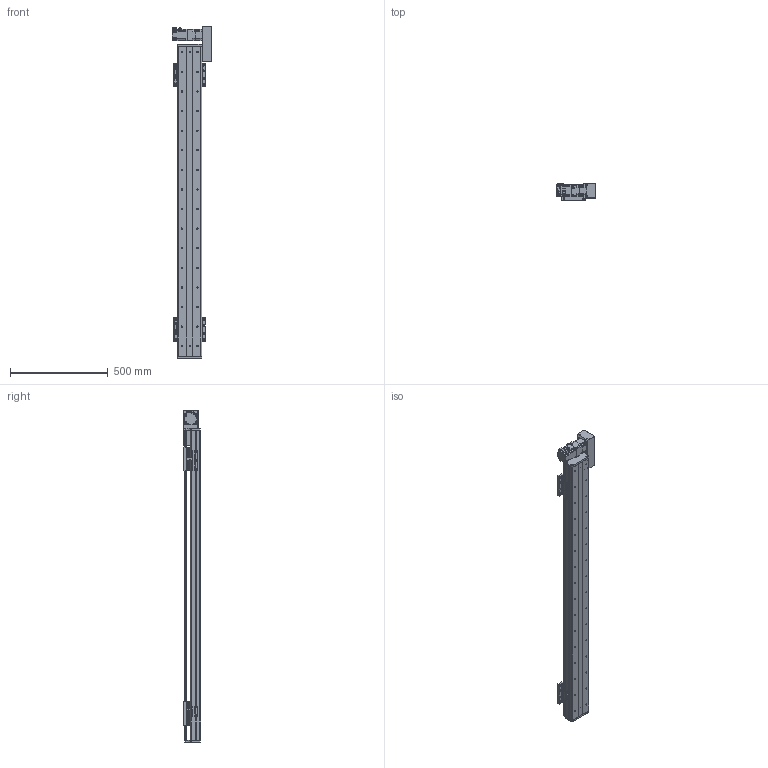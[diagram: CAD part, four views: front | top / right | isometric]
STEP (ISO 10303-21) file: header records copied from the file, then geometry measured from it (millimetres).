
FILE_DESCRIPTION(/* description */ (''),/* implementation_level */ '2;1');
FILE_NAME(/* name */ 'C:\Users\PC\Desktop\3D도면\STEP\STEP\DSB125-R2G-W1300-L.stp',/* time_stamp */ '2018-06-13T15:59:34+09:00',/* author */ ('PC'),/* organization */ (''),/* preprocessor_version */ 'ST-DEVELOPER v16.5',/* originating_system */ 'Autodesk Inventor 2017',/* authorisation */ '');
FILE_SCHEMA (('AUTOMOTIVE_DESIGN { 1 0 10303 214 3 1 1 }'));
Length unit declared in the file: millimetre
Products named in the file (12): DSB125-L2G-W1300-R_MIR; DSB125-BASE_MIR; DSB125-FRONT COVER_MIR; DSB125-REAR COVER_MIR; DSB125-UP COVER_MIR; DSB125-TABLE(MSB15S)_MIR; hg-kr23__MIR; ab0601-p0401200402_MIR; 13-BELT COVER_MIR; DSR125-SENSOR DOG_MIR; pm-y65_step_MIR; SENSOR BRACKET(EE-SX674A)_MIR
Assembly tree (16 placements, depth 2):
  DSB125-L2G-W1300-R_MIR
    DSB125-BASE_MIR
    DSB125-FRONT COVER_MIR
    DSB125-REAR COVER_MIR
    DSB125-UP COVER_MIR
    DSB125-TABLE(MSB15S)_MIR  x2
    hg-kr23__MIR
    ab0601-p0401200402_MIR
    13-BELT COVER_MIR
    DSR125-SENSOR DOG_MIR
    pm-y65_step_MIR  x3
    SENSOR BRACKET(EE-SX674A)_MIR  x3
Bounding box: 202.1 x 88 x 1694 mm (x, y, z)
Volume: 5661080.5 mm3; surface area: 1629003.6 mm2
Topology: 17 solids, 17 shells, 1675 faces, 4540 edges, 2990 vertices
Faces by surface type: plane 903, cylinder 638, cone 122, sphere 8, torus 4
Full cylindrical faces by diameter (mm): 2.459 x20, 3.242 x16, 3.5 x6, 4 x1, 4.134 x16, 4.2 x4, 4.3 x1, 4.5 x50, 4.917 x20, 5 x22, 5.3 x1, 5.5 x4, 5.6 x8, 5.8 x4, 5.9 x8, 6 x4, 6.6 x22, 6.647 x32, 7.5 x32, 8.5 x8, 8.7 x1, 11 x22, 14 x1, 16 x2, 17 x1, 20 x1, 47 x1, 50 x3
Entity records: 36305 total; most frequent: CARTESIAN_POINT 6531, DIRECTION 6170, ORIENTED_EDGE 5506, EDGE_CURVE 2753, AXIS2_PLACEMENT_3D 2273, VERTEX_POINT 1962, EDGE_LOOP 1701, LINE 1624
